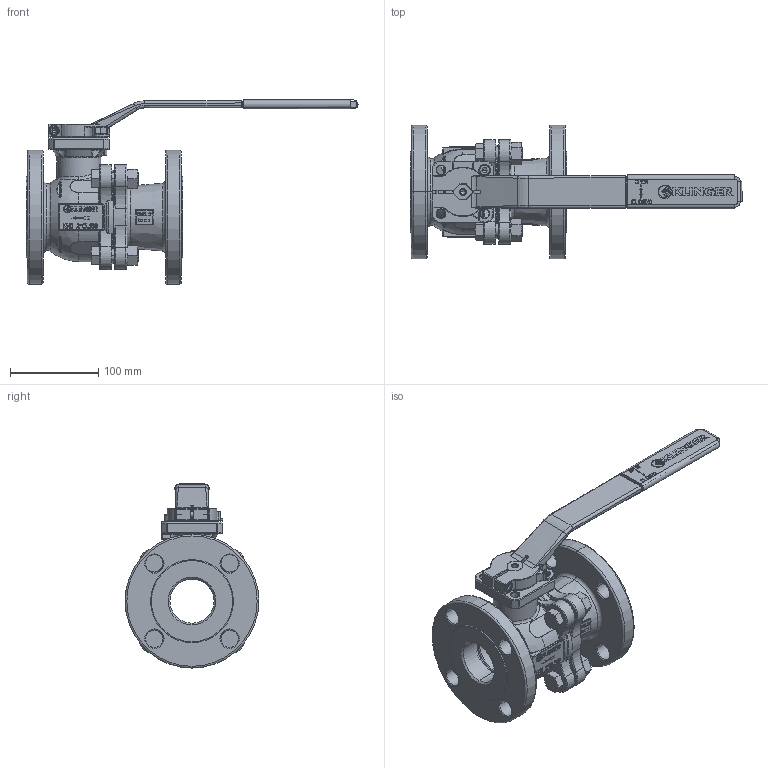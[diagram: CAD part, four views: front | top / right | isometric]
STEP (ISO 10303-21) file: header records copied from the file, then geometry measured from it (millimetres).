
FILE_DESCRIPTION((''),'2;1');
FILE_NAME('KHECL-2-C150_XC','2016-08-29T',('santag'),('RAND'),'PRO/ENGINEER BY PARAMETRIC TECHNOLOGY CORPORATION, 2016100','PRO/ENGINEER BY PARAMETRIC TECHNOLOGY CORPORATION, 2016100','');
FILE_SCHEMA(('CONFIG_CONTROL_DESIGN'));
Products named in the file (1): KHECL-2-C150_XC
Bounding box: 377 x 152 x 209.05 mm (x, y, z)
Volume: 1478956.5 mm3; surface area: 319628.8 mm2
Topology: 1 solids, 2 shells, 3271 faces, 8460 edges, 5313 vertices
Faces by surface type: plane 1869, cylinder 514, torus 334, bspline 314, cone 203, sphere 37
Entity records: 131144 total; most frequent: CARTESIAN_POINT 52895, ORIENTED_EDGE 16886, DIRECTION 15472, EDGE_CURVE 8443, VECTOR 5436, LINE 5436, VERTEX_POINT 5313, AXIS2_PLACEMENT_3D 5018
